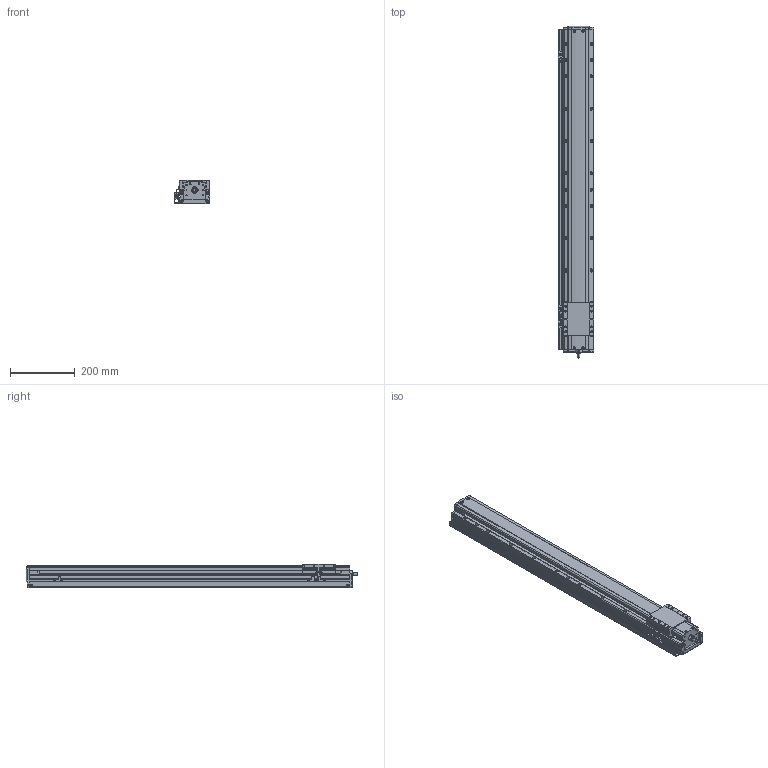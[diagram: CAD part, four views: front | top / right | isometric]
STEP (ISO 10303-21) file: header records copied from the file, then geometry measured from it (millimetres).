
FILE_DESCRIPTION(('STEP AP214'),'1');
FILE_NAME('Z:/Web/3D/PSA95/STP/PSA95-800 (3D)/PSA95ㅁㅁ-800+3SL.stp','2014-07-03T00:48:55',(' '),(' '),'Spatial InterOp 3D',' ',' ');
FILE_SCHEMA(('automotive_design'));
Length unit declared in the file: millimetre
Products named in the file (36): BASE; RRCV; 스크루 : Round - M4.0 x 10.0; 너트 : Square - M10.0 x 220.7419; RR1500; FRCV-090; 스크루 : Round - M4.0 x 6.0; SLBL-PA90; EE-SX674; SBK-SX674-352; 스크루 : Round - M3.0 x 6.0; M3.0 x 6.0; SRL-16x17-380L; SGD-PA95; 스크루 : Round - M3.0 x 8.0
Bounding box: 111 x 1026 x 74 mm (x, y, z)
Volume: 5476043.5 mm3; surface area: 644617.1 mm2
Topology: 36 solids, 36 shells, 2356 faces, 6318 edges, 4058 vertices
Faces by surface type: plane 1368, cylinder 687, cone 213, sphere 50, bspline 24, torus 14
Entity records: 94893 total; most frequent: CARTESIAN_POINT 15903, DIRECTION 12490, ORIENTED_EDGE 12372, EDGE_CURVE 6186, LINE 4252, VECTOR 4252, AXIS2_PLACEMENT_3D 4119, VERTEX_POINT 4058
